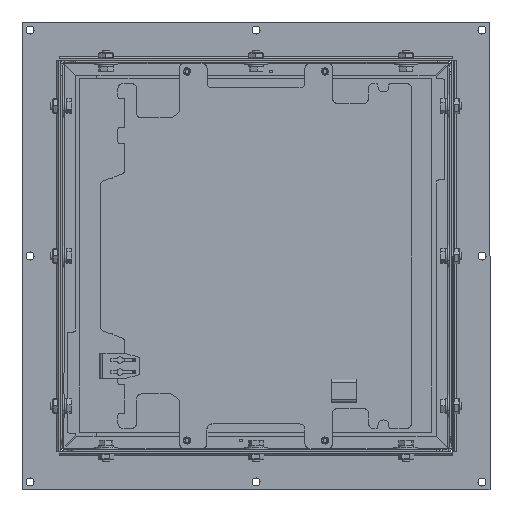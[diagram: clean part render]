
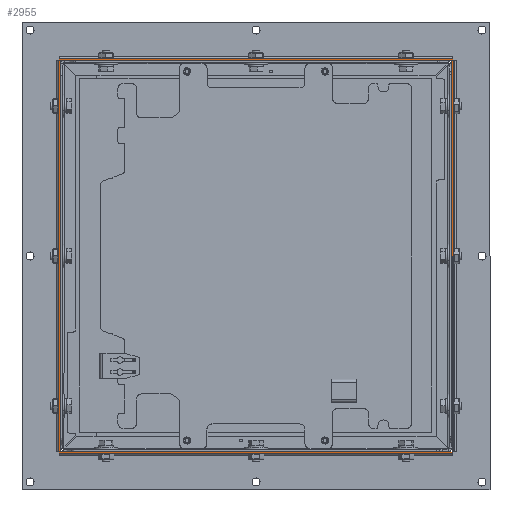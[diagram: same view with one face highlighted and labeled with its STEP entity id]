
A CAD part, front view. The second image highlights one B-rep face of the part: STEP entity #2955.
In plain terms, the highlighted planar face has unit normal (0, -1, 0).
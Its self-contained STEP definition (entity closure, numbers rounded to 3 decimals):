
#1194 = VECTOR ( 'NONE', #74771, 1000. ) ;
#1778 = VERTEX_POINT ( 'NONE', #64077 ) ;
#2187 = CARTESIAN_POINT ( 'NONE',  ( -197., -35., 196. ) ) ;
#2634 = VERTEX_POINT ( 'NONE', #44109 ) ;
#2955 = ADVANCED_FACE ( 'NONE', ( #61147, #50672 ), #14023, .F. ) ;
#4192 = EDGE_CURVE ( 'NONE', #79880, #24342, #72327, .T. ) ;
#4286 = CARTESIAN_POINT ( 'NONE',  ( 196., -35., -196. ) ) ;
#4354 = DIRECTION ( 'NONE',  ( 0., 0., -1. ) ) ;
#4560 = VECTOR ( 'NONE', #4354, 1000. ) ;
#5348 = LINE ( 'NONE', #57705, #34051 ) ;
#5802 = CARTESIAN_POINT ( 'NONE',  ( -197., -35., -198. ) ) ;
#6320 = ORIENTED_EDGE ( 'NONE', *, *, #68738, .T. ) ;
#7475 = LINE ( 'NONE', #85310, #72792 ) ;
#7508 = CARTESIAN_POINT ( 'NONE',  ( -197., -35., 196. ) ) ;
#9079 = ORIENTED_EDGE ( 'NONE', *, *, #20207, .T. ) ;
#9435 = VERTEX_POINT ( 'NONE', #5802 ) ;
#10459 = ORIENTED_EDGE ( 'NONE', *, *, #40949, .F. ) ;
#10730 = VECTOR ( 'NONE', #28549, 1000. ) ;
#11217 = CARTESIAN_POINT ( 'NONE',  ( 196., -35., 196. ) ) ;
#11478 = VECTOR ( 'NONE', #86612, 1000. ) ;
#13042 = DIRECTION ( 'NONE',  ( 0., 0., 1. ) ) ;
#13572 = VERTEX_POINT ( 'NONE', #11217 ) ;
#13672 = EDGE_CURVE ( 'NONE', #79880, #36932, #65112, .T. ) ;
#14023 = PLANE ( 'NONE',  #47168 ) ;
#14743 = VECTOR ( 'NONE', #83137, 1000. ) ;
#14867 = ORIENTED_EDGE ( 'NONE', *, *, #25064, .T. ) ;
#15942 = ORIENTED_EDGE ( 'NONE', *, *, #82475, .F. ) ;
#17441 = ORIENTED_EDGE ( 'NONE', *, *, #4192, .F. ) ;
#19037 = DIRECTION ( 'NONE',  ( 1., 0., 0. ) ) ;
#19075 = ORIENTED_EDGE ( 'NONE', *, *, #21233, .F. ) ;
#20207 = EDGE_CURVE ( 'NONE', #54516, #24342, #7475, .T. ) ;
#20709 = LINE ( 'NONE', #84683, #61865 ) ;
#21233 = EDGE_CURVE ( 'NONE', #44084, #56658, #87350, .T. ) ;
#21360 = LINE ( 'NONE', #72336, #4560 ) ;
#23736 = DIRECTION ( 'NONE',  ( 1., 0., 0. ) ) ;
#24000 = VECTOR ( 'NONE', #38915, 1000. ) ;
#24342 = VERTEX_POINT ( 'NONE', #81023 ) ;
#25064 = EDGE_CURVE ( 'NONE', #70076, #2634, #82869, .T. ) ;
#25082 = EDGE_CURVE ( 'NONE', #1778, #60211, #20709, .T. ) ;
#26227 = CARTESIAN_POINT ( 'NONE',  ( 196., -35., 196. ) ) ;
#26993 = CARTESIAN_POINT ( 'NONE',  ( 198., -35., 196. ) ) ;
#27252 = EDGE_LOOP ( 'NONE', ( #9079, #17441, #67385, #36495, #73079, #67183, #43042, #10459, #14867, #6320, #19075, #28034 ) ) ;
#27972 = CARTESIAN_POINT ( 'NONE',  ( -197., -35., -196. ) ) ;
#28034 = ORIENTED_EDGE ( 'NONE', *, *, #52490, .T. ) ;
#28549 = DIRECTION ( 'NONE',  ( 0., 0., -1. ) ) ;
#30891 = EDGE_CURVE ( 'NONE', #1778, #9435, #72841, .T. ) ;
#30950 = CARTESIAN_POINT ( 'NONE',  ( 197., -35., -198. ) ) ;
#31530 = LINE ( 'NONE', #30950, #52590 ) ;
#34051 = VECTOR ( 'NONE', #36818, 1000. ) ;
#36495 = ORIENTED_EDGE ( 'NONE', *, *, #74711, .T. ) ;
#36818 = DIRECTION ( 'NONE',  ( 0., 0., 1. ) ) ;
#36932 = VERTEX_POINT ( 'NONE', #61491 ) ;
#38915 = DIRECTION ( 'NONE',  ( -1., 0., 0. ) ) ;
#40368 = VECTOR ( 'NONE', #13042, 1000. ) ;
#40949 = EDGE_CURVE ( 'NONE', #70076, #66296, #82311, .T. ) ;
#41388 = DIRECTION ( 'NONE',  ( 0., 1., 0. ) ) ;
#41541 = CARTESIAN_POINT ( 'NONE',  ( -196., -35., 196. ) ) ;
#43042 = ORIENTED_EDGE ( 'NONE', *, *, #62213, .T. ) ;
#43547 = VECTOR ( 'NONE', #19037, 1000. ) ;
#43664 = CARTESIAN_POINT ( 'NONE',  ( 197., -35., -196. ) ) ;
#43871 = CARTESIAN_POINT ( 'NONE',  ( 197., -35., 196. ) ) ;
#44084 = VERTEX_POINT ( 'NONE', #49907 ) ;
#44109 = CARTESIAN_POINT ( 'NONE',  ( 198., -35., -196. ) ) ;
#47168 = AXIS2_PLACEMENT_3D ( 'NONE', #7508, #41388, #68172 ) ;
#47821 = LINE ( 'NONE', #79329, #43547 ) ;
#49907 = CARTESIAN_POINT ( 'NONE',  ( 197., -35., 196. ) ) ;
#50126 = ORIENTED_EDGE ( 'NONE', *, *, #57393, .F. ) ;
#50587 = CARTESIAN_POINT ( 'NONE',  ( 196., -35., -196. ) ) ;
#50672 = FACE_OUTER_BOUND ( 'NONE', #27252, .T. ) ;
#50897 = DIRECTION ( 'NONE',  ( -1., 0., 0. ) ) ;
#52188 = VECTOR ( 'NONE', #76773, 1000. ) ;
#52490 = EDGE_CURVE ( 'NONE', #44084, #54516, #70043, .T. ) ;
#52590 = VECTOR ( 'NONE', #75532, 1000. ) ;
#53490 = CARTESIAN_POINT ( 'NONE',  ( -196., -35., -196. ) ) ;
#54009 = EDGE_CURVE ( 'NONE', #13572, #84183, #78972, .T. ) ;
#54471 = VECTOR ( 'NONE', #80365, 1000. ) ;
#54516 = VERTEX_POINT ( 'NONE', #56579 ) ;
#55910 = VERTEX_POINT ( 'NONE', #57697 ) ;
#56563 = ORIENTED_EDGE ( 'NONE', *, *, #54009, .F. ) ;
#56579 = CARTESIAN_POINT ( 'NONE',  ( 197., -35., 198. ) ) ;
#56658 = VERTEX_POINT ( 'NONE', #26993 ) ;
#57073 = DIRECTION ( 'NONE',  ( -1., 0., 0. ) ) ;
#57158 = VECTOR ( 'NONE', #73742, 1000. ) ;
#57393 = EDGE_CURVE ( 'NONE', #67722, #13572, #58266, .T. ) ;
#57697 = CARTESIAN_POINT ( 'NONE',  ( -196., -35., -196. ) ) ;
#57705 = CARTESIAN_POINT ( 'NONE',  ( 198., -35., 196. ) ) ;
#58266 = LINE ( 'NONE', #26227, #40368 ) ;
#60211 = VERTEX_POINT ( 'NONE', #62489 ) ;
#61147 = FACE_BOUND ( 'NONE', #63645, .T. ) ;
#61491 = CARTESIAN_POINT ( 'NONE',  ( -198., -35., 196. ) ) ;
#61822 = CARTESIAN_POINT ( 'NONE',  ( 197., -35., -196. ) ) ;
#61865 = VECTOR ( 'NONE', #57073, 1000. ) ;
#62213 = EDGE_CURVE ( 'NONE', #9435, #66296, #31530, .T. ) ;
#62489 = CARTESIAN_POINT ( 'NONE',  ( -198., -35., -196. ) ) ;
#63645 = EDGE_LOOP ( 'NONE', ( #56563, #50126, #15942, #69559 ) ) ;
#64077 = CARTESIAN_POINT ( 'NONE',  ( -197., -35., -196. ) ) ;
#65011 = VECTOR ( 'NONE', #23736, 1000. ) ;
#65112 = LINE ( 'NONE', #79162, #24000 ) ;
#66296 = VERTEX_POINT ( 'NONE', #77264 ) ;
#66536 = EDGE_CURVE ( 'NONE', #84183, #55910, #79228, .T. ) ;
#67183 = ORIENTED_EDGE ( 'NONE', *, *, #30891, .T. ) ;
#67385 = ORIENTED_EDGE ( 'NONE', *, *, #13672, .T. ) ;
#67722 = VERTEX_POINT ( 'NONE', #4286 ) ;
#68023 = CARTESIAN_POINT ( 'NONE',  ( -197., -35., 196. ) ) ;
#68172 = DIRECTION ( 'NONE',  ( 0., 0., -1. ) ) ;
#68738 = EDGE_CURVE ( 'NONE', #2634, #56658, #5348, .T. ) ;
#69559 = ORIENTED_EDGE ( 'NONE', *, *, #66536, .F. ) ;
#70043 = LINE ( 'NONE', #43871, #52188 ) ;
#70076 = VERTEX_POINT ( 'NONE', #43664 ) ;
#72327 = LINE ( 'NONE', #73912, #54471 ) ;
#72336 = CARTESIAN_POINT ( 'NONE',  ( -198., -35., -196. ) ) ;
#72749 = CARTESIAN_POINT ( 'NONE',  ( 196., -35., 196. ) ) ;
#72792 = VECTOR ( 'NONE', #50897, 1000. ) ;
#72841 = LINE ( 'NONE', #27972, #1194 ) ;
#73079 = ORIENTED_EDGE ( 'NONE', *, *, #25082, .F. ) ;
#73742 = DIRECTION ( 'NONE',  ( 0., 0., -1. ) ) ;
#73912 = CARTESIAN_POINT ( 'NONE',  ( -197., -35., 196. ) ) ;
#74711 = EDGE_CURVE ( 'NONE', #36932, #60211, #21360, .T. ) ;
#74771 = DIRECTION ( 'NONE',  ( 0., 0., -1. ) ) ;
#75532 = DIRECTION ( 'NONE',  ( 1., 0., 0. ) ) ;
#76773 = DIRECTION ( 'NONE',  ( 0., 0., 1. ) ) ;
#77264 = CARTESIAN_POINT ( 'NONE',  ( 197., -35., -198. ) ) ;
#78972 = LINE ( 'NONE', #2187, #14743 ) ;
#79162 = CARTESIAN_POINT ( 'NONE',  ( -196., -35., 196. ) ) ;
#79228 = LINE ( 'NONE', #53490, #57158 ) ;
#79329 = CARTESIAN_POINT ( 'NONE',  ( 197., -35., -196. ) ) ;
#79880 = VERTEX_POINT ( 'NONE', #68023 ) ;
#80365 = DIRECTION ( 'NONE',  ( 0., 0., 1. ) ) ;
#81023 = CARTESIAN_POINT ( 'NONE',  ( -197., -35., 198. ) ) ;
#82311 = LINE ( 'NONE', #61822, #10730 ) ;
#82475 = EDGE_CURVE ( 'NONE', #55910, #67722, #47821, .T. ) ;
#82869 = LINE ( 'NONE', #50587, #65011 ) ;
#83137 = DIRECTION ( 'NONE',  ( -1., 0., 0. ) ) ;
#84183 = VERTEX_POINT ( 'NONE', #41541 ) ;
#84683 = CARTESIAN_POINT ( 'NONE',  ( -196., -35., -196. ) ) ;
#85310 = CARTESIAN_POINT ( 'NONE',  ( -197., -35., 198. ) ) ;
#86612 = DIRECTION ( 'NONE',  ( 1., 0., 0. ) ) ;
#87350 = LINE ( 'NONE', #72749, #11478 ) ;
